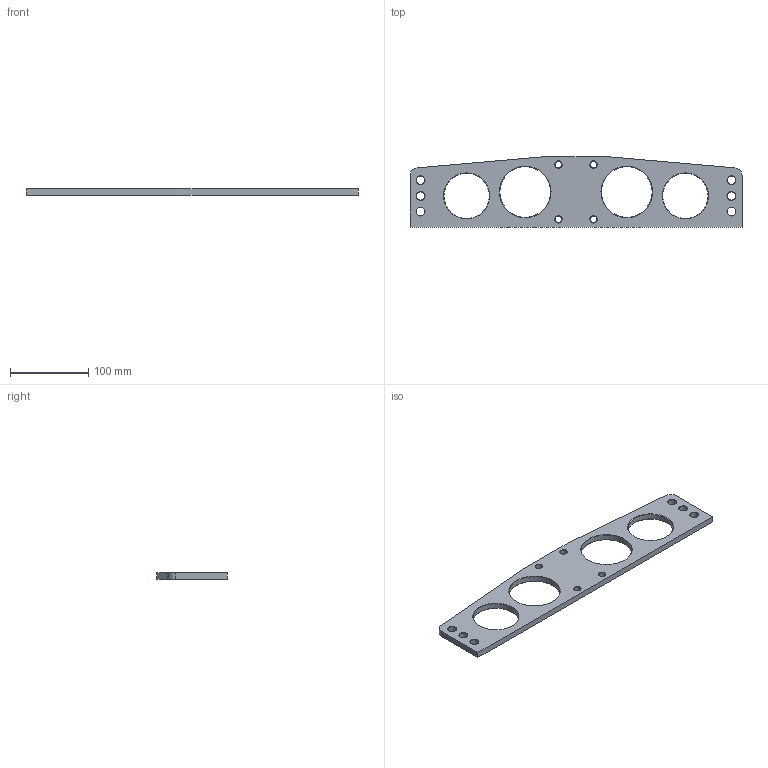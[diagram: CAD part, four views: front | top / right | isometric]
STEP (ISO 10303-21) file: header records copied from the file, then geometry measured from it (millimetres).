
FILE_DESCRIPTION(/* description */ (''),/* implementation_level */ '2;1');
FILE_NAME(/* name */ 'TRAYLOADER.91.stp',/* time_stamp */ '2025-05-12T17:10:30+02:00',/* author */ (''),/* organization */ (''),/* preprocessor_version */ 'ST-DEVELOPER v19.4',/* originating_system */ 'SIEMENS PLM Software NX2306.5001',/* authorisation */ '');
FILE_SCHEMA (('AP203_CONFIGURATION_CONTROLLED_3D_DESIGN_OF_MECHANICAL_PARTS_AND_ASSEMBLIES_MIM_LF { 1 0 10303 403 2 1 2}'));
Length unit declared in the file: millimetre
Products named in the file (1): TRAYLOADER.91_objects
Bounding box: 425 x 90 x 8 mm (x, y, z)
Volume: 183881.9 mm3; surface area: 61993.7 mm2
Topology: 1 solids, 1 shells, 52 faces, 122 edges, 72 vertices
Faces by surface type: cone 28, cylinder 16, plane 8
Full cylindrical faces by diameter (mm): 8.5 x4, 10.5 x6, 58 x2, 65 x2
Entity records: 1414 total; most frequent: DIRECTION 246, CARTESIAN_POINT 205, ORIENTED_EDGE 160, EDGE_LOOP 122, FACE_BOUND 114, AXIS2_PLACEMENT_3D 113, EDGE_CURVE 80, VERTEX_POINT 72
